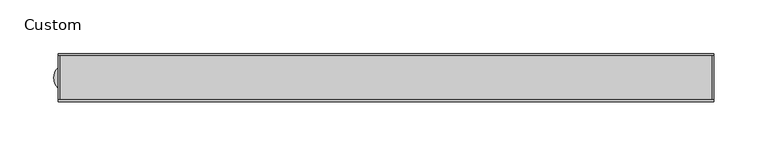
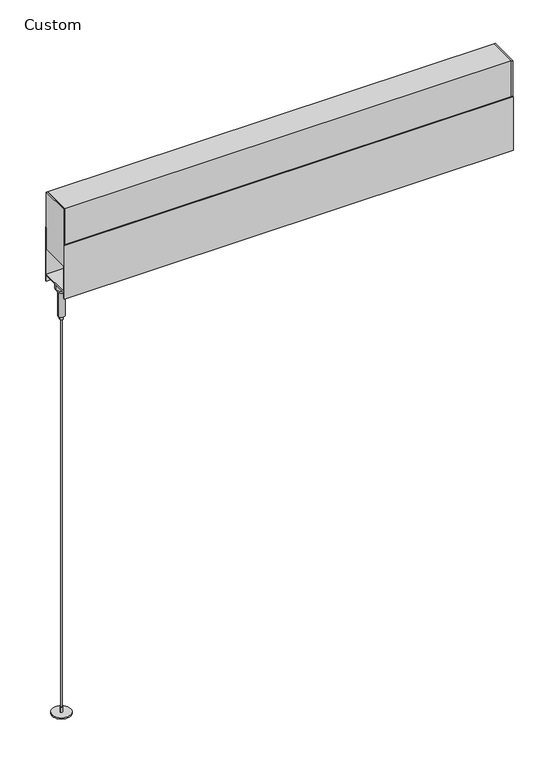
"""IFC4 building model written with IfcOpenShell, lengths in millimetres: light fixture geometry, Lighting-Pendant-Axis-Sculpt-Linear-Direct : Custom."""

import ifcopenshell
import ifcopenshell.guid

model = None  # the IFC model being written
_history = None  # IfcOwnerHistory: only IFC2X3 demands one
_inside = {}  # id of a spatial element -> (the spatial element, [elements in it])
_under = {}  # id of a project, library or spatial element -> (it, [spatial elements below it])
_declared = {}  # id of a project -> (the project, [libraries it declares])
_typed = {}  # id of a type object -> (the type object, [elements of that type])
_made_of = {}  # id of a material, layer set ... -> (it, [elements and type objects made of it])


def new_model(schema):
    """Start an empty IFC model of exactly this schema.

    Asked for "IFC4X3", IfcOpenShell would pick the latest addendum, in which some entities
    have other attributes; the version numbers below select the first issue.
    IFC2X3 requires an IfcOwnerHistory on every rooted entity: one is made here for all.
    """
    global model, _history
    if schema == "IFC4X3":
        model = ifcopenshell.file(schema_version=(4, 3, 0, 0))
    else:
        model = ifcopenshell.file(schema=schema)
    _inside.clear()
    _under.clear()
    _declared.clear()
    _typed.clear()
    _made_of.clear()
    _history = None
    if model.schema == "IFC2X3":
        org = make("IfcOrganization", Name="unknown")
        user = make(
            "IfcPersonAndOrganization",
            ThePerson=make("IfcPerson", FamilyName="unknown"),
            TheOrganization=org,
        )
        app = make(
            "IfcApplication",
            ApplicationDeveloper=org,
            Version="unknown",
            ApplicationFullName="unknown",
            ApplicationIdentifier="unknown",
        )
        _history = make(
            "IfcOwnerHistory",
            OwningUser=user,
            OwningApplication=app,
            ChangeAction="ADDED",
            CreationDate=0,
        )
    return model


def make(cls, **values):
    """One entity of the class cls with the attributes given. An attribute that is None is left unset."""
    return model.create_entity(
        cls, **{name: value for name, value in values.items() if value is not None}
    )


def rooted(cls, **values):
    """An entity with a GlobalId (a new one), such as an element, a storey or a relation."""
    return make(cls, GlobalId=ifcopenshell.guid.new(), OwnerHistory=_history, **values)


def si_unit(unit_type, name, prefix=None):
    """IfcSIUnit, for example si_unit("LENGTHUNIT", "METRE", prefix="MILLI")."""
    return make("IfcSIUnit", UnitType=unit_type, Prefix=prefix, Name=name)


def assignment(units):
    """IfcUnitAssignment: the units of a project."""
    return None if units is None else make("IfcUnitAssignment", Units=units)


def point(xyz):
    """IfcCartesianPoint."""
    return None if xyz is None else make("IfcCartesianPoint", Coordinates=xyz)


def direction(xyz):
    """IfcDirection."""
    return None if xyz is None else make("IfcDirection", DirectionRatios=xyz)


def frame(location, z_axis=None, x_axis=None):
    """IfcAxis2Placement3D, a coordinate frame: its origin and axes. An axis left out is left unset."""
    return make(
        "IfcAxis2Placement3D",
        Location=point(location),
        Axis=direction(z_axis),
        RefDirection=direction(x_axis),
    )


def frame_2d(location, x_axis=None):
    """IfcAxis2Placement2D, a coordinate frame in the plane: its origin and x axis."""
    return make(
        "IfcAxis2Placement2D", Location=point(location), RefDirection=direction(x_axis)
    )


def origin():
    """The frame at (0, 0, 0) with its axes left unset."""
    return frame((0.0, 0.0, 0.0))


def origin_with_axes():
    """The frame at (0, 0, 0) with the z axis (0, 0, 1) and the x axis (1, 0, 0) written out."""
    return frame((0.0, 0.0, 0.0), z_axis=(0.0, 0.0, 1.0), x_axis=(1.0, 0.0, 0.0))


def place(relative_to, where):
    """IfcLocalPlacement: puts the frame where relative to a parent placement (None: the world)."""
    return make(
        "IfcLocalPlacement", PlacementRelTo=relative_to, RelativePlacement=where
    )


def context(
    kind, dimensions, precision=None, world=None, true_north=None, identifier=None
):
    """IfcGeometricRepresentationContext, for example the 3D "Model" context."""
    return make(
        "IfcGeometricRepresentationContext",
        ContextIdentifier=identifier,
        ContextType=kind,
        CoordinateSpaceDimension=dimensions,
        Precision=precision,
        WorldCoordinateSystem=world,
        TrueNorth=true_north,
    )


def project(units=None, contexts=None):
    """IfcProject with its units and contexts."""
    return rooted(
        "IfcProject",
        Name="project",
        RepresentationContexts=contexts,
        UnitsInContext=assignment(units),
    )


def spatial(cls, under=None, at=None, **own):
    """A site, building, storey or space (cls), placed at a placement, below another one or the project."""
    s = rooted(cls, ObjectPlacement=at, **own)
    if under is not None:
        _under.setdefault(under.id(), (under, []))[1].append(s)
    return s


def polyline(points):
    """IfcPolyline through the points."""
    return make("IfcPolyline", Points=[point(p) for p in points])


def circle_curve(where, radius):
    """IfcCircle in the frame where."""
    return make("IfcCircle", Position=where, Radius=radius)


def trimmed(basis, trim1, trim2, sense, master):
    """IfcTrimmedCurve: the piece of a basis curve between two trims."""
    return make(
        "IfcTrimmedCurve",
        BasisCurve=basis,
        Trim1=trim1,
        Trim2=trim2,
        SenseAgreement=sense,
        MasterRepresentation=master,
    )


def segment(curve, same_sense, transition):
    """IfcCompositeCurveSegment."""
    return make(
        "IfcCompositeCurveSegment",
        Transition=transition,
        SameSense=same_sense,
        ParentCurve=curve,
    )


def composite_curve(segments, self_intersect=None):
    """IfcCompositeCurve: segments joined end to end."""
    return make("IfcCompositeCurve", Segments=segments, SelfIntersect=self_intersect)


def outline(outer, holes=None, kind="AREA"):
    """IfcArbitraryClosedProfileDef: a profile drawn as a closed curve; with holes, ...WithVoids."""
    if holes is None:
        return make("IfcArbitraryClosedProfileDef", ProfileType=kind, OuterCurve=outer)
    return make(
        "IfcArbitraryProfileDefWithVoids",
        ProfileType=kind,
        OuterCurve=outer,
        InnerCurves=holes,
    )


def extrude(swept, where, along, depth):
    """IfcExtrudedAreaSolid: the profile swept, set in the frame where, extruded along a direction by depth."""
    return make(
        "IfcExtrudedAreaSolid",
        SweptArea=swept,
        Position=where,
        ExtrudedDirection=direction(along),
        Depth=depth,
    )


def shape(context_of_items, identifier, shape_type, items):
    """IfcShapeRepresentation: the items that make up one representation, for example the "Body"."""
    return make(
        "IfcShapeRepresentation",
        ContextOfItems=context_of_items,
        RepresentationIdentifier=identifier,
        RepresentationType=shape_type,
        Items=items,
    )


def source(mapping_origin, context_of_items, identifier, shape_type, items):
    """IfcRepresentationMap: a shape defined once, which mapped items show again and again."""
    return make(
        "IfcRepresentationMap",
        MappingOrigin=mapping_origin,
        MappedRepresentation=shape(context_of_items, identifier, shape_type, items),
    )


def transform(
    local_origin,
    x_axis=None,
    y_axis=None,
    z_axis=None,
    scale=None,
    scale2=None,
    scale3=None,
    uniform=True,
):
    """IfcCartesianTransformationOperator3D, or its non-uniform kind. x_axis, y_axis, z_axis: its Axis1, 2, 3."""
    if uniform:
        return make(
            "IfcCartesianTransformationOperator3D",
            Axis1=direction(x_axis),
            Axis2=direction(y_axis),
            LocalOrigin=point(local_origin),
            Scale=scale,
            Axis3=direction(z_axis),
        )
    return make(
        "IfcCartesianTransformationOperator3DnonUniform",
        Axis1=direction(x_axis),
        Axis2=direction(y_axis),
        LocalOrigin=point(local_origin),
        Scale=scale,
        Axis3=direction(z_axis),
        Scale2=scale2,
        Scale3=scale3,
    )


def mapped(mapping_source, mapping_target):
    """IfcMappedItem: shows the shape of a source again, moved by a transform."""
    return make(
        "IfcMappedItem", MappingSource=mapping_source, MappingTarget=mapping_target
    )


def made_of(thing, what):
    """Note that an element or type object is made of a material, layer set ...; save() writes the relation."""
    if what is not None:
        _made_of.setdefault(what.id(), (what, []))[1].append(thing)
    return thing


def element(
    cls,
    number,
    at=None,
    inside=None,
    cuts=None,
    type_object=None,
    material=None,
    context=None,
    identifier="Body",
    shape_type=None,
    held_by="IfcProductDefinitionShape",
    body=None,
    shapes=None,
    **own,
):
    """One element of the class cls, such as IfcWall. Its Tag is "e" and its number.

    at: its placement. inside: the storey or other place that contains it. cuts: it is an
    opening in that element (IfcRelVoidsElement). A single representation is given by context,
    identifier, shape_type and body (its items); several are given by shapes. held_by: the class
    of the entity that holds the representations. save() writes the other relations.
    """
    e = rooted(cls, Tag="e%d" % number, ObjectPlacement=at, **own)
    if body is not None:
        shapes = [shape(context, identifier, shape_type, body)]
    if shapes is not None:
        e.Representation = make(held_by, Representations=shapes)
    if inside is not None:
        _inside.setdefault(inside.id(), (inside, []))[1].append(e)
    if cuts is not None:
        rooted(
            "IfcRelVoidsElement", RelatingBuildingElement=cuts, RelatedOpeningElement=e
        )
    if type_object is not None:
        _typed.setdefault(type_object.id(), (type_object, []))[1].append(e)
    return made_of(e, material)


def aggregate(whole, parts):
    """IfcRelAggregates: a whole, such as a stair, and the parts it consists of."""
    return rooted("IfcRelAggregates", RelatingObject=whole, RelatedObjects=parts)


def save(model, path):
    """Write the relations noted so far, then the file.

    IfcRelAggregates (storeys below a building ...), IfcRelContainedInSpatialStructure (elements
    in a storey), IfcRelDefinesByType, IfcRelAssociatesMaterial and IfcRelDeclares: one each for
    every whole, place, type object, material and project.
    """
    for whole, parts in _under.values():
        aggregate(whole, parts)
    for where, things in _inside.values():
        rooted(
            "IfcRelContainedInSpatialStructure",
            RelatedElements=things,
            RelatingStructure=where,
        )
    for kind, things in _typed.values():
        rooted("IfcRelDefinesByType", RelatedObjects=things, RelatingType=kind)
    for what, things in _made_of.values():
        rooted("IfcRelAssociatesMaterial", RelatedObjects=things, RelatingMaterial=what)
    for by, libraries in _declared.values():
        rooted("IfcRelDeclares", RelatingContext=by, RelatedDefinitions=libraries)
    model.write(path)


def plane_surface(at):
    """IfcPlane: the flat surface through the origin of the frame at, square to its z axis."""
    return make("IfcPlane", Position=at)


def cylinder_surface(at, radius):
    """IfcCylindricalSurface: all points at the distance radius from the z axis of the frame at."""
    return make("IfcCylindricalSurface", Position=at, Radius=radius)


def revolved_surface(curve, axis_point, axis_direction):
    """IfcSurfaceOfRevolution: the curve turned about the line through axis_point along axis_direction."""
    return make(
        "IfcSurfaceOfRevolution",
        SweptCurve=make("IfcArbitraryOpenProfileDef", ProfileType="CURVE", Curve=curve),
        AxisPosition=make("IfcAxis1Placement", Location=point(axis_point), Axis=direction(axis_direction)),
    )


def advanced_brep(points, edges, surfaces, faces):
    """IfcAdvancedBrep: a solid bounded by faces that lie on surfaces and meet in shared edges.

    An edge is (start, end): straight between two places in points (the first is 0);
    or (start, end, curve); or (start, end, curve, False) where it runs against its curve.
    A face is (place in surfaces, loops), or (place, loops, False) where it looks against
    its surface's normal. A loop lists edges by number (the first is 1), with a minus sign
    where the edge is run from its end to its start. The first loop is the outer one.
    """
    corners = [point(p) for p in points]
    vertices = [make("IfcVertexPoint", VertexGeometry=c) for c in corners]
    made = []
    for start, end, *more in edges:
        made.append(
            make(
                "IfcEdgeCurve",
                EdgeStart=vertices[start],
                EdgeEnd=vertices[end],
                EdgeGeometry=more[0] if more else make("IfcPolyline", Points=[corners[start], corners[end]]),
                SameSense=more[1] if len(more) > 1 else True,
            )
        )
    hull = []
    for where, loops, *sense in faces:
        bounds = []
        for j, loop in enumerate(loops):
            ring = [make("IfcOrientedEdge", EdgeElement=made[abs(k) - 1], Orientation=k > 0) for k in loop]
            bounds.append(
                make(
                    "IfcFaceOuterBound" if j == 0 else "IfcFaceBound",
                    Bound=make("IfcEdgeLoop", EdgeList=ring),
                    Orientation=True,
                )
            )
        hull.append(make("IfcAdvancedFace", Bounds=bounds, FaceSurface=surfaces[where], SameSense=sense[0] if sense else True))
    return make("IfcAdvancedBrep", Outer=make("IfcClosedShell", CfsFaces=hull))


def custom_c07f768b(model_context):
    return source(origin(), model_context, "Body", "SolidModel", [
        advanced_brep(
        [(-300.7359999, 0.0, 604.4810805), (-291.5920001, 0.0, 604.4810805), (-291.5920001, 0.0, 570.5474987), (-300.7359999, 0.0, 570.5474987), (-304.0602633, 0.0, 609.6), (-288.2677367, 0.0, 609.6), (-298.4499999, 0.0, 565.4674991), (-293.8780001, 0.0, 565.4674991), (-296.164, 0.0, 565.4674991), (-298.4499999, 0.0, 570.5474987), (-293.8780001, 0.0, 570.5474987), (-304.0602633, 0.0, 618.0455013), (-288.2677367, 0.0, 618.0455013), (-296.164, 0.0, 618.0455013)],
        [
            (0, 1, circle_curve(frame((-296.164, 0.0, 604.4810805), z_axis=(0.0, 0.0, -1.0), x_axis=(1.0, 0.0, 0.0)), 4.5719999)),
            (1, 2),
            (2, 3, circle_curve(frame((-296.164, 0.0, 570.5474987), z_axis=(0.0, 0.0, 1.0), x_axis=(1.0, 0.0, 0.0)), 4.5719999)),
            (3, 0),
            (1, 0, circle_curve(frame((-296.164, 0.0, 604.4810805), z_axis=(0.0, 0.0, -1.0), x_axis=(1.0, 0.0, 0.0)), 4.5719999)),
            (3, 2, circle_curve(frame((-296.164, 0.0, 570.5474987), z_axis=(0.0, 0.0, 1.0), x_axis=(1.0, 0.0, 0.0)), 4.5719999)),
            (4, 5, circle_curve(frame((-296.164, 0.0, 609.6), z_axis=(0.0, 0.0, -1.0), x_axis=(1.0, 0.0, 0.0)), 7.8962633)),
            (5, 1),
            (0, 4),
            (5, 4, circle_curve(frame((-296.164, 0.0, 609.6), z_axis=(0.0, 0.0, -1.0), x_axis=(1.0, 0.0, 0.0)), 7.8962633)),
            (6, 7, circle_curve(frame((-296.164, 0.0, 565.4674991), z_axis=(0.0, 0.0, -1.0), x_axis=(1.0, 0.0, 0.0)), 2.2859999)),
            (7, 8),
            (8, 6),
            (7, 6, circle_curve(frame((-296.164, 0.0, 565.4674991), z_axis=(0.0, 0.0, -1.0), x_axis=(1.0, 0.0, 0.0)), 2.2859999)),
            (9, 10, circle_curve(frame((-296.164, 0.0, 570.5474987), z_axis=(0.0, 0.0, -1.0), x_axis=(1.0, 0.0, 0.0)), 2.2859999)),
            (10, 7),
            (6, 9),
            (10, 9, circle_curve(frame((-296.164, 0.0, 570.5474987), z_axis=(0.0, 0.0, -1.0), x_axis=(1.0, 0.0, 0.0)), 2.2859999)),
            (2, 10),
            (9, 3),
            (11, 12, circle_curve(frame((-296.164, 0.0, 618.0455013), z_axis=(0.0, 0.0, -1.0), x_axis=(1.0, 0.0, 0.0)), 7.8962633)),
            (12, 5),
            (4, 11),
            (12, 11, circle_curve(frame((-296.164, 0.0, 618.0455013), z_axis=(0.0, 0.0, -1.0), x_axis=(1.0, 0.0, 0.0)), 7.8962633)),
            (13, 12),
            (11, 13),
        ],
        [
            cylinder_surface(frame((-296.164, 0.0, 2761.4581012), z_axis=(0.0, 0.0, 1.0), x_axis=(1.0, 0.0, 0.0)), 4.5719999),
            revolved_surface(polyline([(-291.5920001, 0.0, 604.4810805), (-288.2677367, 0.0, 609.6)]), (-296.164, 0.0, 2761.4581012), (0.0, 0.0, 1.0)),
            plane_surface(frame((-296.164, 0.0, 565.4674991), z_axis=(0.0, 0.0, -1.0), x_axis=(1.0, 0.0, 0.0))),
            cylinder_surface(frame((-296.164, 0.0, 2761.4581012), z_axis=(0.0, 0.0, 1.0), x_axis=(1.0, 0.0, 0.0)), 2.2859999),
            plane_surface(frame((-296.164, 0.0, 570.5474987), z_axis=(0.0, 0.0, -1.0), x_axis=(1.0, 0.0, 0.0))),
            cylinder_surface(frame((-296.164, 0.0, 2761.4581012), z_axis=(0.0, 0.0, 1.0), x_axis=(1.0, 0.0, 0.0)), 7.8962633),
            plane_surface(frame((-296.164, 0.0, 618.0455013), z_axis=(0.0, 0.0, 1.0), x_axis=(1.0, 0.0, 0.0))),
        ],
        [
            (0, [[1, 2, 3, 4]]),
            (0, [[5, -4, 6, -2]]),
            (1, [[7, 8, -1, 9]]),
            (1, [[10, -9, -5, -8]]),
            (2, [[11, 12, 13]]),
            (2, [[14, -13, -12]]),
            (3, [[15, 16, -11, 17]]),
            (3, [[18, -17, -14, -16]]),
            (4, [[-3, 19, -15, 20]]),
            (4, [[-6, -20, -18, -19]]),
            (5, [[21, 22, -7, 23]]),
            (5, [[24, -23, -10, -22]]),
            (6, [[25, -21, 26]]),
            (6, [[-26, -24, -25]]),
        ],
    ),
        extrude(outline(composite_curve([segment(trimmed(circle_curve(frame_2d((-296.164, 0.0)), 0.79375), [point((-296.95775, 0.0))], [point((-295.37025, 0.0))], False, "CARTESIAN"), True, "CONTINUOUS"), segment(trimmed(circle_curve(frame_2d((-296.164, 0.0)), 0.79375), [point((-295.37025, 0.0))], [point((-296.95775, 0.0))], False, "CARTESIAN"), True, "CONTINUOUS")], self_intersect=False)), origin_with_axes(), (0.0, 0.0, 1.0), 565.4674991),
        extrude(outline(composite_curve([segment(trimmed(circle_curve(frame_2d((-296.164, 0.0)), 12.7), [point((-308.864, 0.0))], [point((-283.464, 0.0))], False, "CARTESIAN"), True, "CONTINUOUS"), segment(trimmed(circle_curve(frame_2d((-296.164, 0.0)), 12.7), [point((-283.464, 0.0))], [point((-308.864, 0.0))], False, "CARTESIAN"), True, "CONTINUOUS")], self_intersect=False)), origin_with_axes(), (0.0, 0.0, 1.0), 1.5875),
        extrude(outline(composite_curve([segment(trimmed(circle_curve(frame_2d((-296.164, 0.0)), 1.5875), [point((-297.7515, 0.0))], [point((-294.5765, 0.0))], False, "CARTESIAN"), True, "CONTINUOUS"), segment(trimmed(circle_curve(frame_2d((-296.164, 0.0)), 1.5875), [point((-294.5765, 0.0))], [point((-297.7515, 0.0))], False, "CARTESIAN"), True, "CONTINUOUS")], self_intersect=False)), frame((0.0, 0.0, 1.5875), z_axis=(0.0, 0.0, 1.0), x_axis=(1.0, 0.0, 0.0)), (0.0, 0.0, 1.0), 7.9375),
        extrude(outline(polyline([(-303.276, 20.193), (-303.276, -20.193), (-304.8, -20.193), (-304.8, 20.193), (-303.276, 20.193)])), frame((0.0, 0.0, 656.11502), z_axis=(0.0, 0.0, 1.0), x_axis=(1.0, 0.0, 0.0)), (0.0, 0.0, 1.0), 81.28),
        extrude(outline(polyline([(303.276, 20.193), (304.8, 20.193), (304.8, -20.193), (303.276, -20.193), (303.276, 20.193)])), frame((0.0, 0.0, 656.11502), z_axis=(0.0, 0.0, 1.0), x_axis=(1.0, 0.0, 0.0)), (0.0, 0.0, 1.0), 81.28),
        extrude(outline(polyline([(18.669, 656.11502), (18.669, 735.87102), (-18.669, 735.87102), (-18.669, 656.11502), (-20.193, 656.11502), (-20.193, 737.39502), (20.193, 737.39502), (20.193, 656.11502), (18.669, 656.11502)])), frame((-303.276, 0.0, 0.0), z_axis=(1.0, 0.0, 0.0), x_axis=(0.0, 1.0, 0.0)), (0.0, 0.0, 1.0), 606.552),
        extrude(outline(polyline([(-20.193, 620.0775), (20.193, 620.0775), (20.193, 686.59375), (22.225, 686.59375), (22.225, 609.6), (20.193, 609.6), (20.193, 618.0455), (-20.193, 618.0455), (-20.193, 609.6), (-22.225, 609.6), (-22.225, 686.59375), (-20.193, 686.59375), (-20.193, 620.0775)])), frame((-304.8, 0.0, 0.0), z_axis=(1.0, 0.0, 0.0), x_axis=(0.0, 1.0, 0.0)), (0.0, 0.0, 1.0), 609.6),
    ])


if __name__ == "__main__":
    model = new_model("IFC4")
    model_context = context("Model", 3, world=origin())
    ifc_project = project(units=[si_unit("LENGTHUNIT", "METRE", prefix="MILLI")], contexts=[model_context])
    site = spatial("IfcSite", under=ifc_project)
    building = spatial("IfcBuilding", under=site)
    placement = place(None, origin())
    custom_shape = custom_c07f768b(model_context)
    element("IfcLightFixture", 1, ObjectType="Lighting-Pendant-Axis-Sculpt-Linear-Direct : Custom", at=placement, inside=building, context=model_context, shape_type="MappedRepresentation", body=[
        mapped(custom_shape, transform((0.0, 0.0, 0.0), x_axis=(1.0, 0.0, 0.0), y_axis=(0.0, 1.0, 0.0), z_axis=(0.0, 0.0, 1.0))),
    ])
    save(model, "model.ifc")
